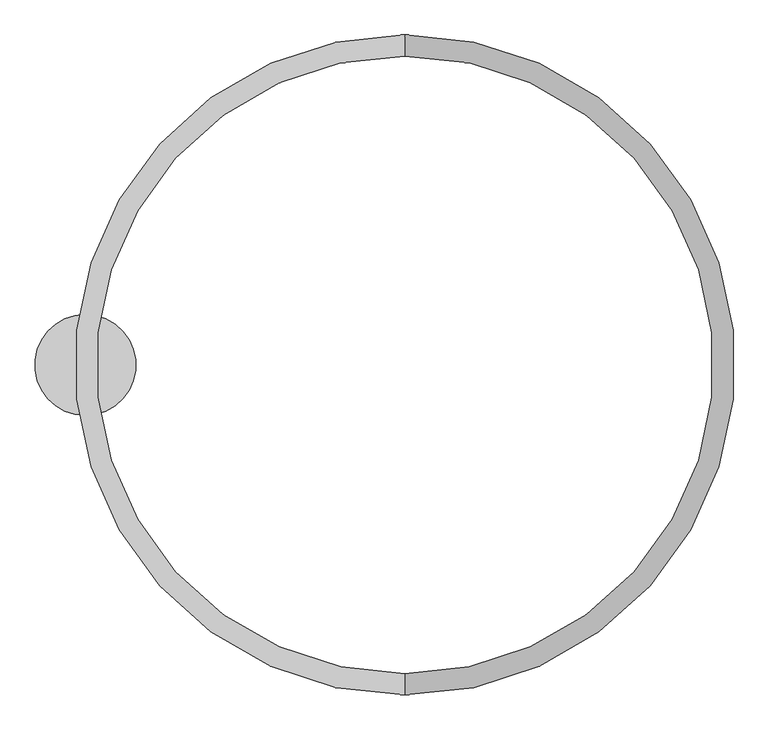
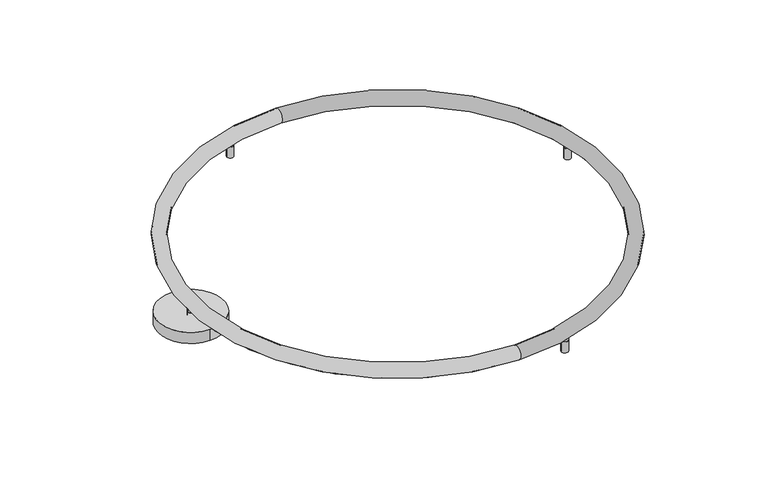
"""IFC4 building model written with IfcOpenShell, lengths in millimetres: light fixture geometry, ARTEMIDE-AoL-StandAlone-Circular_WallCeiling : StandALone_WallCeiling_Circular-1550mm 10740lm 3000K."""

from ifc_helpers import new_model, si_unit, point, frame, origin, origin_with_axes, origin_2d, place, context, project, spatial, polyline, circle_curve, ellipse_curve, trimmed, segment, composite_curve, outline, extrude, source, transform, mapped, element, save
from ifc_brep_helpers import plane_surface, cylinder_surface, revolved_surface, advanced_brep


def light_fixture_4ab28960(model_context):
    return source(origin(), model_context, "Body", "SolidModel", [
        advanced_brep(
        [(-5.5, 0.0, 0.0), (5.5, 0.0, 0.0), (0.0, 0.0, 0.0), (-5.5, 0.0, 1.0), (5.5, 0.0, 1.0), (-12.0, 0.0, 1.0), (12.0, 0.0, 1.0), (-12.0, 0.0, 42.5), (12.0, 0.0, 42.5), (-9.5243756, 0.0, 42.5), (9.5243756, 0.0, 42.5), (-9.5243756, 0.0, 43.4995055), (9.5243756, 0.0, 43.4995055), (-12.0, 0.0, 43.4995055), (12.0, 0.0, 43.4995055), (-12.0, 0.0, 52.9579379), (12.0, 0.0, 52.9579379), (0.0, 0.0, 52.9579379)],
        [
            (0, 1, circle_curve(frame((0.0, 0.0, 0.0), z_axis=(0.0, 0.0, -1.0), x_axis=(1.0, 0.0, 0.0)), 5.5)),
            (1, 2),
            (2, 0),
            (1, 0, circle_curve(frame((0.0, 0.0, 0.0), z_axis=(0.0, 0.0, -1.0), x_axis=(1.0, 0.0, 0.0)), 5.5)),
            (3, 4, circle_curve(frame((0.0, 0.0, 1.0), z_axis=(0.0, 0.0, -1.0), x_axis=(1.0, 0.0, 0.0)), 5.5)),
            (4, 1),
            (0, 3),
            (4, 3, circle_curve(frame((0.0, 0.0, 1.0), z_axis=(0.0, 0.0, -1.0), x_axis=(1.0, 0.0, 0.0)), 5.5)),
            (5, 6, circle_curve(frame((0.0, 0.0, 1.0), z_axis=(0.0, 0.0, -1.0), x_axis=(1.0, 0.0, 0.0)), 12.0)),
            (6, 4),
            (3, 5),
            (6, 5, circle_curve(frame((0.0, 0.0, 1.0), z_axis=(0.0, 0.0, -1.0), x_axis=(1.0, 0.0, 0.0)), 12.0)),
            (7, 8, circle_curve(frame((0.0, 0.0, 42.5), z_axis=(0.0, 0.0, -1.0), x_axis=(1.0, 0.0, 0.0)), 12.0)),
            (8, 6),
            (5, 7),
            (8, 7, circle_curve(frame((0.0, 0.0, 42.5), z_axis=(0.0, 0.0, -1.0), x_axis=(1.0, 0.0, 0.0)), 12.0)),
            (9, 10, circle_curve(frame((0.0, 0.0, 42.5), z_axis=(0.0, 0.0, -1.0), x_axis=(1.0, 0.0, 0.0)), 9.5243756)),
            (10, 8),
            (7, 9),
            (10, 9, circle_curve(frame((0.0, 0.0, 42.5), z_axis=(0.0, 0.0, -1.0), x_axis=(1.0, 0.0, 0.0)), 9.5243756)),
            (11, 12, circle_curve(frame((0.0, 0.0, 43.4995055), z_axis=(0.0, 0.0, -1.0), x_axis=(1.0, 0.0, 0.0)), 9.5243756)),
            (12, 10),
            (9, 11),
            (12, 11, circle_curve(frame((0.0, 0.0, 43.4995055), z_axis=(0.0, 0.0, -1.0), x_axis=(1.0, 0.0, 0.0)), 9.5243756)),
            (13, 14, circle_curve(frame((0.0, 0.0, 43.4995055), z_axis=(0.0, 0.0, -1.0), x_axis=(1.0, 0.0, 0.0)), 12.0)),
            (14, 12),
            (11, 13),
            (14, 13, circle_curve(frame((0.0, 0.0, 43.4995055), z_axis=(0.0, 0.0, -1.0), x_axis=(1.0, 0.0, 0.0)), 12.0)),
            (15, 16, circle_curve(frame((0.0, 0.0, 52.9579379), z_axis=(0.0, 0.0, -1.0), x_axis=(1.0, 0.0, 0.0)), 12.0)),
            (16, 14),
            (13, 15),
            (16, 15, circle_curve(frame((0.0, 0.0, 52.9579379), z_axis=(0.0, 0.0, -1.0), x_axis=(1.0, 0.0, 0.0)), 12.0)),
            (17, 16),
            (15, 17),
        ],
        [
            plane_surface(frame((0.0, 0.0, 0.0), z_axis=(0.0, 0.0, -1.0), x_axis=(1.0, 0.0, 0.0))),
            cylinder_surface(frame((0.0, 0.0, -58.83358), z_axis=(0.0, 0.0, 1.0), x_axis=(1.0, 0.0, 0.0)), 5.5),
            plane_surface(frame((0.0, 0.0, 1.0), z_axis=(0.0, 0.0, -1.0), x_axis=(1.0, 0.0, 0.0))),
            cylinder_surface(frame((0.0, 0.0, -58.83358), z_axis=(0.0, 0.0, 1.0), x_axis=(1.0, 0.0, 0.0)), 12.0),
            plane_surface(frame((0.0, 0.0, 42.5), z_axis=(0.0, 0.0, 1.0), x_axis=(1.0, 0.0, 0.0))),
            cylinder_surface(frame((0.0, 0.0, -58.83358), z_axis=(0.0, 0.0, 1.0), x_axis=(1.0, 0.0, 0.0)), 9.5243756),
            plane_surface(frame((0.0, 0.0, 43.4995055), z_axis=(0.0, 0.0, -1.0), x_axis=(1.0, 0.0, 0.0))),
            plane_surface(frame((0.0, 0.0, 52.9579379), z_axis=(0.0, 0.0, 1.0), x_axis=(1.0, 0.0, 0.0))),
        ],
        [
            (0, [[1, 2, 3]]),
            (0, [[4, -3, -2]]),
            (1, [[5, 6, -1, 7]]),
            (1, [[8, -7, -4, -6]]),
            (2, [[9, 10, -5, 11]]),
            (2, [[12, -11, -8, -10]]),
            (3, [[13, 14, -9, 15]]),
            (3, [[16, -15, -12, -14]]),
            (4, [[17, 18, -13, 19]]),
            (4, [[20, -19, -16, -18]]),
            (5, [[21, 22, -17, 23]]),
            (5, [[24, -23, -20, -22]]),
            (6, [[25, 26, -21, 27]]),
            (6, [[28, -27, -24, -26]]),
            (3, [[29, 30, -25, 31]]),
            (3, [[32, -31, -28, -30]]),
            (7, [[33, -29, 34]]),
            (7, [[-34, -32, -33]]),
        ],
    ),
        advanced_brep(
        [(1481.5, 188.0, 0.0), (1470.5, 188.0, 0.0), (1476.0, 188.0, 0.0), (1481.5, 188.0, 1.0), (1470.5, 188.0, 1.0), (1488.0, 188.0, 1.0), (1464.0, 188.0, 1.0), (1488.0, 188.0, 42.5), (1464.0, 188.0, 42.5), (1485.5243756, 188.0, 42.5), (1466.4756244, 188.0, 42.5), (1485.5243756, 188.0, 43.4995055), (1466.4756244, 188.0, 43.4995055), (1488.0, 188.0, 43.4995055), (1464.0, 188.0, 43.4995055), (1488.0, 188.0, 52.9579379), (1464.0, 188.0, 52.9579379), (1476.0, 188.0, 52.9579379)],
        [
            (0, 1, circle_curve(frame((1476.0, 188.0, 0.0), z_axis=(0.0, 0.0, -1.0), x_axis=(-1.0, 0.0, 0.0)), 5.5)),
            (1, 2),
            (2, 0),
            (1, 0, circle_curve(frame((1476.0, 188.0, 0.0), z_axis=(0.0, 0.0, -1.0), x_axis=(-1.0, 0.0, 0.0)), 5.5)),
            (3, 4, circle_curve(frame((1476.0, 188.0, 1.0), z_axis=(0.0, 0.0, -1.0), x_axis=(-1.0, 0.0, 0.0)), 5.5)),
            (4, 1),
            (0, 3),
            (4, 3, circle_curve(frame((1476.0, 188.0, 1.0), z_axis=(0.0, 0.0, -1.0), x_axis=(-1.0, 0.0, 0.0)), 5.5)),
            (5, 6, circle_curve(frame((1476.0, 188.0, 1.0), z_axis=(0.0, 0.0, -1.0), x_axis=(-1.0, 0.0, 0.0)), 12.0)),
            (6, 4),
            (3, 5),
            (6, 5, circle_curve(frame((1476.0, 188.0, 1.0), z_axis=(0.0, 0.0, -1.0), x_axis=(-1.0, 0.0, 0.0)), 12.0)),
            (7, 8, circle_curve(frame((1476.0, 188.0, 42.5), z_axis=(0.0, 0.0, -1.0), x_axis=(-1.0, 0.0, 0.0)), 12.0)),
            (8, 6),
            (5, 7),
            (8, 7, circle_curve(frame((1476.0, 188.0, 42.5), z_axis=(0.0, 0.0, -1.0), x_axis=(-1.0, 0.0, 0.0)), 12.0)),
            (9, 10, circle_curve(frame((1476.0, 188.0, 42.5), z_axis=(0.0, 0.0, -1.0), x_axis=(-1.0, 0.0, 0.0)), 9.5243756)),
            (10, 8),
            (7, 9),
            (10, 9, circle_curve(frame((1476.0, 188.0, 42.5), z_axis=(0.0, 0.0, -1.0), x_axis=(-1.0, 0.0, 0.0)), 9.5243756)),
            (11, 12, circle_curve(frame((1476.0, 188.0, 43.4995055), z_axis=(0.0, 0.0, -1.0), x_axis=(-1.0, 0.0, 0.0)), 9.5243756)),
            (12, 10),
            (9, 11),
            (12, 11, circle_curve(frame((1476.0, 188.0, 43.4995055), z_axis=(0.0, 0.0, -1.0), x_axis=(-1.0, 0.0, 0.0)), 9.5243756)),
            (13, 14, circle_curve(frame((1476.0, 188.0, 43.4995055), z_axis=(0.0, 0.0, -1.0), x_axis=(-1.0, 0.0, 0.0)), 12.0)),
            (14, 12),
            (11, 13),
            (14, 13, circle_curve(frame((1476.0, 188.0, 43.4995055), z_axis=(0.0, 0.0, -1.0), x_axis=(-1.0, 0.0, 0.0)), 12.0)),
            (15, 16, circle_curve(frame((1476.0, 188.0, 52.9579379), z_axis=(0.0, 0.0, -1.0), x_axis=(-1.0, 0.0, 0.0)), 12.0)),
            (16, 14),
            (13, 15),
            (16, 15, circle_curve(frame((1476.0, 188.0, 52.9579379), z_axis=(0.0, 0.0, -1.0), x_axis=(-1.0, 0.0, 0.0)), 12.0)),
            (17, 16),
            (15, 17),
        ],
        [
            plane_surface(frame((1476.0, 188.0, 0.0), z_axis=(0.0, 0.0, -1.0), x_axis=(-1.0, 0.0, 0.0))),
            cylinder_surface(frame((1476.0, 188.0, -58.83358), z_axis=(0.0, 0.0, 1.0), x_axis=(-1.0, 0.0, 0.0)), 5.5),
            plane_surface(frame((1476.0, 188.0, 1.0), z_axis=(0.0, 0.0, -1.0), x_axis=(-1.0, 0.0, 0.0))),
            cylinder_surface(frame((1476.0, 188.0, -58.83358), z_axis=(0.0, 0.0, 1.0), x_axis=(-1.0, 0.0, 0.0)), 12.0),
            plane_surface(frame((1476.0, 188.0, 42.5), z_axis=(0.0, 0.0, 1.0), x_axis=(-1.0, 0.0, 0.0))),
            cylinder_surface(frame((1476.0, 188.0, -58.83358), z_axis=(0.0, 0.0, 1.0), x_axis=(-1.0, 0.0, 0.0)), 9.5243756),
            plane_surface(frame((1476.0, 188.0, 43.4995055), z_axis=(0.0, 0.0, -1.0), x_axis=(-1.0, 0.0, 0.0))),
            plane_surface(frame((1476.0, 188.0, 52.9579379), z_axis=(0.0, 0.0, 1.0), x_axis=(-1.0, 0.0, 0.0))),
        ],
        [
            (0, [[1, 2, 3]]),
            (0, [[4, -3, -2]]),
            (1, [[5, 6, -1, 7]]),
            (1, [[8, -7, -4, -6]]),
            (2, [[9, 10, -5, 11]]),
            (2, [[12, -11, -8, -10]]),
            (3, [[13, 14, -9, 15]]),
            (3, [[16, -15, -12, -14]]),
            (4, [[17, 18, -13, 19]]),
            (4, [[20, -19, -16, -18]]),
            (5, [[21, 22, -17, 23]]),
            (5, [[24, -23, -20, -22]]),
            (6, [[25, 26, -21, 27]]),
            (6, [[28, -27, -24, -26]]),
            (3, [[29, 30, -25, 31]]),
            (3, [[32, -31, -28, -30]]),
            (7, [[33, -29, 34]]),
            (7, [[-34, -32, -33]]),
        ],
    ),
        advanced_brep(
        [(567.5, 726.0, 0.0), (556.5, 726.0, 0.0), (562.0, 726.0, 0.0), (567.5, 726.0, 1.0), (556.5, 726.0, 1.0), (574.0, 726.0, 1.0), (550.0, 726.0, 1.0), (574.0, 726.0, 42.5), (550.0, 726.0, 42.5), (571.5243756, 726.0, 42.5), (552.4756244, 726.0, 42.5), (571.5243756, 726.0, 43.4995055), (552.4756244, 726.0, 43.4995055), (574.0, 726.0, 43.4995055), (550.0, 726.0, 43.4995055), (574.0, 726.0, 52.9579379), (550.0, 726.0, 52.9579379), (562.0, 726.0, 52.9579379)],
        [
            (0, 1, circle_curve(frame((562.0, 726.0, 0.0), z_axis=(0.0, 0.0, -1.0), x_axis=(-1.0, 0.0, 0.0)), 5.5)),
            (1, 2),
            (2, 0),
            (1, 0, circle_curve(frame((562.0, 726.0, 0.0), z_axis=(0.0, 0.0, -1.0), x_axis=(-1.0, 0.0, 0.0)), 5.5)),
            (3, 4, circle_curve(frame((562.0, 726.0, 1.0), z_axis=(0.0, 0.0, -1.0), x_axis=(-1.0, 0.0, 0.0)), 5.5)),
            (4, 1),
            (0, 3),
            (4, 3, circle_curve(frame((562.0, 726.0, 1.0), z_axis=(0.0, 0.0, -1.0), x_axis=(-1.0, 0.0, 0.0)), 5.5)),
            (5, 6, circle_curve(frame((562.0, 726.0, 1.0), z_axis=(0.0, 0.0, -1.0), x_axis=(-1.0, 0.0, 0.0)), 12.0)),
            (6, 4),
            (3, 5),
            (6, 5, circle_curve(frame((562.0, 726.0, 1.0), z_axis=(0.0, 0.0, -1.0), x_axis=(-1.0, 0.0, 0.0)), 12.0)),
            (7, 8, circle_curve(frame((562.0, 726.0, 42.5), z_axis=(0.0, 0.0, -1.0), x_axis=(-1.0, 0.0, 0.0)), 12.0)),
            (8, 6),
            (5, 7),
            (8, 7, circle_curve(frame((562.0, 726.0, 42.5), z_axis=(0.0, 0.0, -1.0), x_axis=(-1.0, 0.0, 0.0)), 12.0)),
            (9, 10, circle_curve(frame((562.0, 726.0, 42.5), z_axis=(0.0, 0.0, -1.0), x_axis=(-1.0, 0.0, 0.0)), 9.5243756)),
            (10, 8),
            (7, 9),
            (10, 9, circle_curve(frame((562.0, 726.0, 42.5), z_axis=(0.0, 0.0, -1.0), x_axis=(-1.0, 0.0, 0.0)), 9.5243756)),
            (11, 12, circle_curve(frame((562.0, 726.0, 43.4995055), z_axis=(0.0, 0.0, -1.0), x_axis=(-1.0, 0.0, 0.0)), 9.5243756)),
            (12, 10),
            (9, 11),
            (12, 11, circle_curve(frame((562.0, 726.0, 43.4995055), z_axis=(0.0, 0.0, -1.0), x_axis=(-1.0, 0.0, 0.0)), 9.5243756)),
            (13, 14, circle_curve(frame((562.0, 726.0, 43.4995055), z_axis=(0.0, 0.0, -1.0), x_axis=(-1.0, 0.0, 0.0)), 12.0)),
            (14, 12),
            (11, 13),
            (14, 13, circle_curve(frame((562.0, 726.0, 43.4995055), z_axis=(0.0, 0.0, -1.0), x_axis=(-1.0, 0.0, 0.0)), 12.0)),
            (15, 16, circle_curve(frame((562.0, 726.0, 52.9579379), z_axis=(0.0, 0.0, -1.0), x_axis=(-1.0, 0.0, 0.0)), 12.0)),
            (16, 14),
            (13, 15),
            (16, 15, circle_curve(frame((562.0, 726.0, 52.9579379), z_axis=(0.0, 0.0, -1.0), x_axis=(-1.0, 0.0, 0.0)), 12.0)),
            (17, 16),
            (15, 17),
        ],
        [
            plane_surface(frame((562.0, 726.0, 0.0), z_axis=(0.0, 0.0, -1.0), x_axis=(-1.0, 0.0, 0.0))),
            cylinder_surface(frame((562.0, 726.0, -58.83358), z_axis=(0.0, 0.0, 1.0), x_axis=(-1.0, 0.0, 0.0)), 5.5),
            plane_surface(frame((562.0, 726.0, 1.0), z_axis=(0.0, 0.0, -1.0), x_axis=(-1.0, 0.0, 0.0))),
            cylinder_surface(frame((562.0, 726.0, -58.83358), z_axis=(0.0, 0.0, 1.0), x_axis=(-1.0, 0.0, 0.0)), 12.0),
            plane_surface(frame((562.0, 726.0, 42.5), z_axis=(0.0, 0.0, 1.0), x_axis=(-1.0, 0.0, 0.0))),
            cylinder_surface(frame((562.0, 726.0, -58.83358), z_axis=(0.0, 0.0, 1.0), x_axis=(-1.0, 0.0, 0.0)), 9.5243756),
            plane_surface(frame((562.0, 726.0, 43.4995055), z_axis=(0.0, 0.0, -1.0), x_axis=(-1.0, 0.0, 0.0))),
            plane_surface(frame((562.0, 726.0, 52.9579379), z_axis=(0.0, 0.0, 1.0), x_axis=(-1.0, 0.0, 0.0))),
        ],
        [
            (0, [[1, 2, 3]]),
            (0, [[4, -3, -2]]),
            (1, [[5, 6, -1, 7]]),
            (1, [[8, -7, -4, -6]]),
            (2, [[9, 10, -5, 11]]),
            (2, [[12, -11, -8, -10]]),
            (3, [[13, 14, -9, 15]]),
            (3, [[16, -15, -12, -14]]),
            (4, [[17, 18, -13, 19]]),
            (4, [[20, -19, -16, -18]]),
            (5, [[21, 22, -17, 23]]),
            (5, [[24, -23, -20, -22]]),
            (6, [[25, 26, -21, 27]]),
            (6, [[28, -27, -24, -26]]),
            (3, [[29, 30, -25, 31]]),
            (3, [[32, -31, -28, -30]]),
            (7, [[33, -29, 34]]),
            (7, [[-34, -32, -33]]),
        ],
    ),
        extrude(outline(composite_curve([segment(trimmed(circle_curve(origin_2d(), 118.5), [point((0.0, 118.5))], [point((0.0, -118.5))], False, "CARTESIAN"), True, "CONTINUOUS"), segment(trimmed(circle_curve(origin_2d(), 118.5), [point((0.0, -118.5))], [point((0.0, 118.5))], False, "CARTESIAN"), True, "CONTINUOUS")], self_intersect=False)), origin_with_axes(), (0.0, 0.0, 1.0), 42.0),
        advanced_brep(
        [(943.5, -726.0, 0.0), (932.5, -726.0, 0.0), (938.0, -726.0, 0.0), (943.5, -726.0, 1.0), (932.5, -726.0, 1.0), (950.0, -726.0, 1.0), (926.0, -726.0, 1.0), (950.0, -726.0, 42.5), (926.0, -726.0, 42.5), (947.5243756, -726.0, 42.5), (928.4756244, -726.0, 42.5), (947.5243756, -726.0, 43.4995055), (928.4756244, -726.0, 43.4995055), (950.0, -726.0, 43.4995055), (926.0, -726.0, 43.4995055), (950.0, -726.0, 52.9579379), (926.0, -726.0, 52.9579379), (938.0, -726.0, 52.9579379)],
        [
            (0, 1, circle_curve(frame((938.0, -726.0, 0.0), z_axis=(0.0, 0.0, -1.0), x_axis=(-1.0, 0.0, 0.0)), 5.5)),
            (1, 2),
            (2, 0),
            (1, 0, circle_curve(frame((938.0, -726.0, 0.0), z_axis=(0.0, 0.0, -1.0), x_axis=(-1.0, 0.0, 0.0)), 5.5)),
            (3, 4, circle_curve(frame((938.0, -726.0, 1.0), z_axis=(0.0, 0.0, -1.0), x_axis=(-1.0, 0.0, 0.0)), 5.5)),
            (4, 1),
            (0, 3),
            (4, 3, circle_curve(frame((938.0, -726.0, 1.0), z_axis=(0.0, 0.0, -1.0), x_axis=(-1.0, 0.0, 0.0)), 5.5)),
            (5, 6, circle_curve(frame((938.0, -726.0, 1.0), z_axis=(0.0, 0.0, -1.0), x_axis=(-1.0, 0.0, 0.0)), 12.0)),
            (6, 4),
            (3, 5),
            (6, 5, circle_curve(frame((938.0, -726.0, 1.0), z_axis=(0.0, 0.0, -1.0), x_axis=(-1.0, 0.0, 0.0)), 12.0)),
            (7, 8, circle_curve(frame((938.0, -726.0, 42.5), z_axis=(0.0, 0.0, -1.0), x_axis=(-1.0, 0.0, 0.0)), 12.0)),
            (8, 6),
            (5, 7),
            (8, 7, circle_curve(frame((938.0, -726.0, 42.5), z_axis=(0.0, 0.0, -1.0), x_axis=(-1.0, 0.0, 0.0)), 12.0)),
            (9, 10, circle_curve(frame((938.0, -726.0, 42.5), z_axis=(0.0, 0.0, -1.0), x_axis=(-1.0, 0.0, 0.0)), 9.5243756)),
            (10, 8),
            (7, 9),
            (10, 9, circle_curve(frame((938.0, -726.0, 42.5), z_axis=(0.0, 0.0, -1.0), x_axis=(-1.0, 0.0, 0.0)), 9.5243756)),
            (11, 12, circle_curve(frame((938.0, -726.0, 43.4995055), z_axis=(0.0, 0.0, -1.0), x_axis=(-1.0, 0.0, 0.0)), 9.5243756)),
            (12, 10),
            (9, 11),
            (12, 11, circle_curve(frame((938.0, -726.0, 43.4995055), z_axis=(0.0, 0.0, -1.0), x_axis=(-1.0, 0.0, 0.0)), 9.5243756)),
            (13, 14, circle_curve(frame((938.0, -726.0, 43.4995055), z_axis=(0.0, 0.0, -1.0), x_axis=(-1.0, 0.0, 0.0)), 12.0)),
            (14, 12),
            (11, 13),
            (14, 13, circle_curve(frame((938.0, -726.0, 43.4995055), z_axis=(0.0, 0.0, -1.0), x_axis=(-1.0, 0.0, 0.0)), 12.0)),
            (15, 16, circle_curve(frame((938.0, -726.0, 52.9579379), z_axis=(0.0, 0.0, -1.0), x_axis=(-1.0, 0.0, 0.0)), 12.0)),
            (16, 14),
            (13, 15),
            (16, 15, circle_curve(frame((938.0, -726.0, 52.9579379), z_axis=(0.0, 0.0, -1.0), x_axis=(-1.0, 0.0, 0.0)), 12.0)),
            (17, 16),
            (15, 17),
        ],
        [
            plane_surface(frame((938.0, -726.0, 0.0), z_axis=(0.0, 0.0, -1.0), x_axis=(-1.0, 0.0, 0.0))),
            cylinder_surface(frame((938.0, -726.0, -58.83358), z_axis=(0.0, 0.0, 1.0), x_axis=(-1.0, 0.0, 0.0)), 5.5),
            plane_surface(frame((938.0, -726.0, 1.0), z_axis=(0.0, 0.0, -1.0), x_axis=(-1.0, 0.0, 0.0))),
            cylinder_surface(frame((938.0, -726.0, -58.83358), z_axis=(0.0, 0.0, 1.0), x_axis=(-1.0, 0.0, 0.0)), 12.0),
            plane_surface(frame((938.0, -726.0, 42.5), z_axis=(0.0, 0.0, 1.0), x_axis=(-1.0, 0.0, 0.0))),
            cylinder_surface(frame((938.0, -726.0, -58.83358), z_axis=(0.0, 0.0, 1.0), x_axis=(-1.0, 0.0, 0.0)), 9.5243756),
            plane_surface(frame((938.0, -726.0, 43.4995055), z_axis=(0.0, 0.0, -1.0), x_axis=(-1.0, 0.0, 0.0))),
            plane_surface(frame((938.0, -726.0, 52.9579379), z_axis=(0.0, 0.0, 1.0), x_axis=(-1.0, 0.0, 0.0))),
        ],
        [
            (0, [[1, 2, 3]]),
            (0, [[4, -3, -2]]),
            (1, [[5, 6, -1, 7]]),
            (1, [[8, -7, -4, -6]]),
            (2, [[9, 10, -5, 11]]),
            (2, [[12, -11, -8, -10]]),
            (3, [[13, 14, -9, 15]]),
            (3, [[16, -15, -12, -14]]),
            (4, [[17, 18, -13, 19]]),
            (4, [[20, -19, -16, -18]]),
            (5, [[21, 22, -17, 23]]),
            (5, [[24, -23, -20, -22]]),
            (6, [[25, 26, -21, 27]]),
            (6, [[28, -27, -24, -26]]),
            (3, [[29, 30, -25, 31]]),
            (3, [[32, -31, -28, -30]]),
            (7, [[33, -29, 34]]),
            (7, [[-34, -32, -33]]),
        ],
    ),
        advanced_brep(
        [(750.3445739, -738.1969999, 52.9151372), (750.3445739, 738.3030001, 52.9151372), (750.3445739, 761.8030001, 52.9151372), (750.3445739, -761.6969999, 52.9151372), (750.3445739, -738.1969999, 57.2410096), (750.3445739, 738.3030001, 57.2410096), (750.3445739, -736.2792459, 55.8106819), (750.3445739, 736.3852461, 55.8106819), (750.3445739, 736.3852461, 57.2410096), (750.3445739, -736.2792459, 57.2410096), (750.3445739, -734.3292459, 57.2258724), (750.3445739, 734.4352461, 57.2258724), (750.3445739, -734.3292459, 59.2258716), (750.3445739, 734.4352461, 59.2258716), (750.3445739, -737.2792459, 60.7258716), (750.3445739, 737.3852461, 60.7258716), (750.3445739, 737.3852461, 59.2258716), (750.3445739, -737.2792459, 59.2258716), (750.3445739, -767.2249794, 60.7258716), (750.3445739, 767.3309795, 60.7258716), (750.3445739, 732.7750206, 60.7258716), (750.3445739, -732.6690205, 60.7258716), (750.3445739, -762.6147539, 59.2258716), (750.3445739, 762.7207541, 59.2258716), (750.3445739, 762.7207541, 60.7258716), (750.3445739, -762.6147539, 60.7258716), (750.3445739, -765.5647539, 57.2258724), (750.3445739, 765.6707541, 57.2258724), (750.3445739, 765.6707541, 59.2258716), (750.3445739, -765.5647539, 59.2258716), (750.3445739, -763.6147539, 55.8106819), (750.3445739, 763.7207541, 55.8106819), (750.3445739, -763.6147539, 57.2410096), (750.3445739, 763.7207541, 57.2410096), (750.3445739, 761.8030001, 57.2410096), (750.3445739, -761.6969999, 57.2410096)],
        [
            (0, 1, circle_curve(frame((750.3445739, 0.0530001, 52.9151372), z_axis=(0.0, 0.0, -1.0), x_axis=(0.0, 1.0, 0.0)), 738.25)),
            (1, 2, circle_curve(frame((750.3445739, 750.0530001, 74.9817976), z_axis=(-1.0, 0.0, 0.0), x_axis=(0.0, -1.0, 0.0)), 25.0)),
            (2, 3, circle_curve(frame((750.3445739, 0.0530001, 52.9151372), z_axis=(0.0, 0.0, 1.0), x_axis=(0.0, 1.0, 0.0)), 761.75)),
            (3, 0, circle_curve(frame((750.3445739, -749.9469999, 74.9817976), z_axis=(-1.0, 0.0, 0.0), x_axis=(0.0, 1.0, 0.0)), 25.0)),
            (4, 5, circle_curve(frame((750.3445739, 0.0530001, 57.2410096), z_axis=(0.0, 0.0, -1.0), x_axis=(0.0, 1.0, 0.0)), 738.25)),
            (5, 1),
            (0, 4),
            (6, 7, circle_curve(frame((750.3445739, 0.0530001, 55.8106819), z_axis=(0.0, 0.0, -1.0), x_axis=(0.0, 1.0, 0.0)), 736.332246)),
            (7, 8),
            (8, 9, circle_curve(frame((750.3445739, 0.0530001, 57.2410096), z_axis=(0.0, 0.0, 1.0), x_axis=(0.0, 1.0, 0.0)), 736.332246)),
            (9, 6),
            (10, 11, circle_curve(frame((750.3445739, 0.0530001, 57.2258724), z_axis=(0.0, 0.0, -1.0), x_axis=(0.0, 1.0, 0.0)), 734.382246)),
            (11, 7),
            (6, 10),
            (12, 13, circle_curve(frame((750.3445739, 0.0530001, 59.2258716), z_axis=(0.0, 0.0, -1.0), x_axis=(0.0, 1.0, 0.0)), 734.382246)),
            (13, 11),
            (10, 12),
            (14, 15, circle_curve(frame((750.3445739, 0.0530001, 60.7258716), z_axis=(0.0, 0.0, -1.0), x_axis=(0.0, 1.0, 0.0)), 737.332246)),
            (15, 16),
            (16, 17, circle_curve(frame((750.3445739, 0.0530001, 59.2258716), z_axis=(0.0, 0.0, 1.0), x_axis=(0.0, 1.0, 0.0)), 737.332246)),
            (17, 14),
            (18, 19, circle_curve(frame((750.3445739, 0.0530001, 60.7258716), z_axis=(0.0, 0.0, -1.0), x_axis=(0.0, 1.0, 0.0)), 767.2779794)),
            (19, 20, circle_curve(frame((750.3445739, 750.0530001, 74.9817976), z_axis=(1.0, 0.0, 0.0), x_axis=(0.0, -1.0, 0.0)), 22.4)),
            (20, 21, circle_curve(frame((750.3445739, 0.0530001, 60.7258716), z_axis=(0.0, 0.0, 1.0), x_axis=(0.0, 1.0, 0.0)), 732.7220206)),
            (21, 18, circle_curve(frame((750.3445739, -749.9469999, 74.9817976), z_axis=(1.0, 0.0, 0.0), x_axis=(0.0, 1.0, 0.0)), 22.4)),
            (22, 23, circle_curve(frame((750.3445739, 0.0530001, 59.2258716), z_axis=(0.0, 0.0, -1.0), x_axis=(0.0, 1.0, 0.0)), 762.667754)),
            (23, 24),
            (24, 25, circle_curve(frame((750.3445739, 0.0530001, 60.7258716), z_axis=(0.0, 0.0, 1.0), x_axis=(0.0, 1.0, 0.0)), 762.667754)),
            (25, 22),
            (26, 27, circle_curve(frame((750.3445739, 0.0530001, 57.2258724), z_axis=(0.0, 0.0, -1.0), x_axis=(0.0, 1.0, 0.0)), 765.617754)),
            (27, 28),
            (28, 29, circle_curve(frame((750.3445739, 0.0530001, 59.2258716), z_axis=(0.0, 0.0, 1.0), x_axis=(0.0, 1.0, 0.0)), 765.617754)),
            (29, 26),
            (30, 31, circle_curve(frame((750.3445739, 0.0530001, 55.8106819), z_axis=(0.0, 0.0, -1.0), x_axis=(0.0, 1.0, 0.0)), 763.667754)),
            (31, 27),
            (26, 30),
            (32, 33, circle_curve(frame((750.3445739, 0.0530001, 57.2410096), z_axis=(0.0, 0.0, -1.0), x_axis=(0.0, 1.0, 0.0)), 763.667754)),
            (33, 31),
            (30, 32),
            (2, 34),
            (34, 35, circle_curve(frame((750.3445739, 0.0530001, 57.2410096), z_axis=(0.0, 0.0, 1.0), x_axis=(0.0, 1.0, 0.0)), 761.75)),
            (35, 3),
            (1, 0, circle_curve(frame((750.3445739, 0.0530001, 52.9151372), z_axis=(0.0, 0.0, -1.0), x_axis=(0.0, -1.0, 0.0)), 738.25)),
            (3, 2, circle_curve(frame((750.3445739, 0.0530001, 52.9151372), z_axis=(0.0, 0.0, 1.0), x_axis=(0.0, -1.0, 0.0)), 761.75)),
            (5, 4, circle_curve(frame((750.3445739, 0.0530001, 57.2410096), z_axis=(0.0, 0.0, -1.0), x_axis=(0.0, -1.0, 0.0)), 738.25)),
            (8, 9, circle_curve(frame((750.3445739, 0.0530001, 57.2410096), z_axis=(0.0, 0.0, -1.0), x_axis=(0.0, -1.0, 0.0)), 736.332246)),
            (7, 6, circle_curve(frame((750.3445739, 0.0530001, 55.8106819), z_axis=(0.0, 0.0, -1.0), x_axis=(0.0, -1.0, 0.0)), 736.332246)),
            (11, 10, circle_curve(frame((750.3445739, 0.0530001, 57.2258724), z_axis=(0.0, 0.0, -1.0), x_axis=(0.0, -1.0, 0.0)), 734.382246)),
            (13, 12, circle_curve(frame((750.3445739, 0.0530001, 59.2258716), z_axis=(0.0, 0.0, -1.0), x_axis=(0.0, -1.0, 0.0)), 734.382246)),
            (16, 17, circle_curve(frame((750.3445739, 0.0530001, 59.2258716), z_axis=(0.0, 0.0, -1.0), x_axis=(0.0, -1.0, 0.0)), 737.332246)),
            (15, 14, circle_curve(frame((750.3445739, 0.0530001, 60.7258716), z_axis=(0.0, 0.0, -1.0), x_axis=(0.0, -1.0, 0.0)), 737.332246)),
            (20, 21, circle_curve(frame((750.3445739, 0.0530001, 60.7258716), z_axis=(0.0, 0.0, -1.0), x_axis=(0.0, -1.0, 0.0)), 732.7220206)),
            (19, 18, circle_curve(frame((750.3445739, 0.0530001, 60.7258716), z_axis=(0.0, 0.0, -1.0), x_axis=(0.0, -1.0, 0.0)), 767.2779794)),
            (24, 25, circle_curve(frame((750.3445739, 0.0530001, 60.7258716), z_axis=(0.0, 0.0, -1.0), x_axis=(0.0, -1.0, 0.0)), 762.667754)),
            (23, 22, circle_curve(frame((750.3445739, 0.0530001, 59.2258716), z_axis=(0.0, 0.0, -1.0), x_axis=(0.0, -1.0, 0.0)), 762.667754)),
            (28, 29, circle_curve(frame((750.3445739, 0.0530001, 59.2258716), z_axis=(0.0, 0.0, -1.0), x_axis=(0.0, -1.0, 0.0)), 765.617754)),
            (27, 26, circle_curve(frame((750.3445739, 0.0530001, 57.2258724), z_axis=(0.0, 0.0, -1.0), x_axis=(0.0, -1.0, 0.0)), 765.617754)),
            (31, 30, circle_curve(frame((750.3445739, 0.0530001, 55.8106819), z_axis=(0.0, 0.0, -1.0), x_axis=(0.0, -1.0, 0.0)), 763.667754)),
            (33, 32, circle_curve(frame((750.3445739, 0.0530001, 57.2410096), z_axis=(0.0, 0.0, -1.0), x_axis=(0.0, -1.0, 0.0)), 763.667754)),
            (34, 35, circle_curve(frame((750.3445739, 0.0530001, 57.2410096), z_axis=(0.0, 0.0, -1.0), x_axis=(0.0, -1.0, 0.0)), 761.75)),
        ],
        [
            revolved_surface(trimmed(ellipse_curve(frame((750.3445739, 750.0530001, 74.9817976), z_axis=(1.0, 0.0, 0.0), x_axis=(0.0, -1.0, 0.0)), 25.0, 25.0), [point((750.3445739, 761.8030001, 52.9151372))], [point((750.3445739, 738.3030001, 52.9151372))], True, "CARTESIAN"), (750.3445739, 0.0530001, 50.0), (0.0, 0.0, 1.0)),
            cylinder_surface(frame((750.3445739, 0.0530001, 50.0), z_axis=(0.0, 0.0, 1.0), x_axis=(0.0, 1.0, 0.0)), 738.25),
            revolved_surface(polyline([(750.3445739, 736.3852461, 57.2410096), (750.3445739, 736.3852461, 55.8106819)]), (750.3445739, 0.0530001, 50.0), (0.0, 0.0, 1.0)),
            revolved_surface(polyline([(750.3445739, 736.3852461, 55.8106819), (750.3445739, 734.4352461, 57.2258724)]), (750.3445739, 0.0530001, 50.0), (0.0, 0.0, 1.0)),
            cylinder_surface(frame((750.3445739, 0.0530001, 50.0), z_axis=(0.0, 0.0, 1.0), x_axis=(0.0, 1.0, 0.0)), 734.382246),
            cylinder_surface(frame((750.3445739, 0.0530001, 50.0), z_axis=(0.0, 0.0, 1.0), x_axis=(0.0, 1.0, 0.0)), 737.332246),
            revolved_surface(trimmed(ellipse_curve(frame((750.3445739, 750.0530001, 74.9817976), z_axis=(-1.0, 0.0, 0.0), x_axis=(0.0, -1.0, 0.0)), 22.4, 22.4), [point((750.3445739, 732.7750206, 60.7258716))], [point((750.3445739, 767.3309795, 60.7258716))], True, "CARTESIAN"), (750.3445739, 0.0530001, 50.0), (0.0, 0.0, 1.0)),
            revolved_surface(polyline([(750.3445739, 762.7207540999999, 60.7258716), (750.3445739, 762.7207540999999, 59.2258716)]), (750.3445739, 0.0530001, 50.0), (0.0, 0.0, 1.0)),
            revolved_surface(polyline([(750.3445739, 765.6707541, 59.2258716), (750.3445739, 765.6707541, 57.2258724)]), (750.3445739, 0.0530001, 50.0), (0.0, 0.0, 1.0)),
            revolved_surface(polyline([(750.3445739, 765.6707541, 57.2258724), (750.3445739, 763.7207541, 55.8106819)]), (750.3445739, 0.0530001, 50.0), (0.0, 0.0, 1.0)),
            cylinder_surface(frame((750.3445739, 0.0530001, 50.0), z_axis=(0.0, 0.0, 1.0), x_axis=(0.0, 1.0, 0.0)), 763.667754),
            revolved_surface(polyline([(750.3445739, 761.8030001, 57.2410096), (750.3445739, 761.8030001, 52.9151372)]), (750.3445739, 0.0530001, 50.0), (0.0, 0.0, 1.0)),
            revolved_surface(trimmed(ellipse_curve(frame((750.3445739, -749.9469999, 74.9817976), z_axis=(-1.0, 0.0, 0.0), x_axis=(0.0, 1.0, 0.0)), 25.0, 25.0), [point((750.3445739, -761.6969999, 52.9151372))], [point((750.3445739, -738.1969999, 52.9151372))], True, "CARTESIAN"), (750.3445739, 0.0530001, 50.0), (0.0, 0.0, 1.0)),
            cylinder_surface(frame((750.3445739, 0.0530001, 50.0), z_axis=(0.0, 0.0, 1.0), x_axis=(0.0, -1.0, 0.0)), 738.25),
            plane_surface(frame((750.3445739, 0.0530001, 57.2410096), z_axis=(0.0, 0.0, 1.0), x_axis=(0.0, -1.0, 0.0))),
            revolved_surface(polyline([(750.3445739, -736.2792459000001, 57.2410096), (750.3445739, -736.2792459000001, 55.8106819)]), (750.3445739, 0.0530001, 50.0), (0.0, 0.0, 1.0)),
            revolved_surface(polyline([(750.3445739, -736.2792459, 55.8106819), (750.3445739, -734.3292459, 57.2258724)]), (750.3445739, 0.0530001, 50.0), (0.0, 0.0, 1.0)),
            cylinder_surface(frame((750.3445739, 0.0530001, 50.0), z_axis=(0.0, 0.0, 1.0), x_axis=(0.0, -1.0, 0.0)), 734.382246),
            plane_surface(frame((750.3445739, 0.0530001, 59.2258716), z_axis=(0.0, 0.0, -1.0), x_axis=(0.0, -1.0, 0.0))),
            cylinder_surface(frame((750.3445739, 0.0530001, 50.0), z_axis=(0.0, 0.0, 1.0), x_axis=(0.0, -1.0, 0.0)), 737.332246),
            plane_surface(frame((750.3445739, 0.0530001, 60.7258716), z_axis=(0.0, 0.0, 1.0), x_axis=(0.0, -1.0, 0.0))),
            revolved_surface(trimmed(ellipse_curve(frame((750.3445739, -749.9469999, 74.9817976), z_axis=(1.0, 0.0, 0.0), x_axis=(0.0, 1.0, 0.0)), 22.4, 22.4), [point((750.3445739, -732.6690205, 60.7258716))], [point((750.3445739, -767.2249794, 60.7258716))], True, "CARTESIAN"), (750.3445739, 0.0530001, 50.0), (0.0, 0.0, 1.0)),
            revolved_surface(polyline([(750.3445739, -762.6147539, 60.7258716), (750.3445739, -762.6147539, 59.2258716)]), (750.3445739, 0.0530001, 50.0), (0.0, 0.0, 1.0)),
            revolved_surface(polyline([(750.3445739, -765.5647539, 59.2258716), (750.3445739, -765.5647539, 57.2258724)]), (750.3445739, 0.0530001, 50.0), (0.0, 0.0, 1.0)),
            revolved_surface(polyline([(750.3445739, -765.5647539, 57.2258724), (750.3445739, -763.6147539, 55.8106819)]), (750.3445739, 0.0530001, 50.0), (0.0, 0.0, 1.0)),
            cylinder_surface(frame((750.3445739, 0.0530001, 50.0), z_axis=(0.0, 0.0, 1.0), x_axis=(0.0, -1.0, 0.0)), 763.667754),
            revolved_surface(polyline([(750.3445739, -761.6969999, 57.2410096), (750.3445739, -761.6969999, 52.9151372)]), (750.3445739, 0.0530001, 50.0), (0.0, 0.0, 1.0)),
        ],
        [
            (0, [[1, 2, 3, 4]]),
            (1, [[5, 6, -1, 7]]),
            (2, [[8, 9, 10, 11]]),
            (3, [[12, 13, -8, 14]]),
            (4, [[15, 16, -12, 17]]),
            (5, [[18, 19, 20, 21]]),
            (6, [[22, 23, 24, 25]]),
            (7, [[26, 27, 28, 29]]),
            (8, [[30, 31, 32, 33]]),
            (9, [[34, 35, -30, 36]]),
            (10, [[37, 38, -34, 39]]),
            (11, [[-3, 40, 41, 42]]),
            (12, [[43, -4, 44, -2]]),
            (13, [[45, -7, -43, -6]]),
            (14, [[-45, -5], [46, -10]]),
            (15, [[47, -11, -46, -9]]),
            (16, [[48, -14, -47, -13]]),
            (17, [[49, -17, -48, -16]]),
            (18, [[50, -20], [-49, -15]]),
            (19, [[51, -21, -50, -19]]),
            (20, [[-51, -18], [52, -24]]),
            (21, [[53, -25, -52, -23]]),
            (20, [[-53, -22], [54, -28]]),
            (22, [[55, -29, -54, -27]]),
            (18, [[56, -32], [-55, -26]]),
            (23, [[57, -33, -56, -31]]),
            (24, [[58, -36, -57, -35]]),
            (25, [[59, -39, -58, -38]]),
            (14, [[-59, -37], [60, -41]]),
            (26, [[-44, -42, -60, -40]]),
        ],
    ),
        advanced_brep(
        [(750.3445739, -760.75, 52.9), (750.3445739, 762.75, 52.9), (750.3445739, 739.25, 52.9), (750.3445739, -737.25, 52.9), (750.3445739, -760.75, 57.2258724), (750.3445739, 762.75, 57.2258724), (750.3445739, -764.304087, 58.7526314), (750.3445739, 766.304087, 58.7526314), (750.3445739, 766.304087, 57.2258724), (750.3445739, -764.304087, 57.2258724), (750.3445739, -758.5062575, 64.3940086), (750.3445739, 760.5062575, 64.3940086), (750.3445739, 760.5062575, 58.7526314), (750.3445739, -758.5062575, 58.7526314), (750.3445739, -739.4937425, 58.7526314), (750.3445739, 741.4937425, 58.7526314), (750.3445739, 741.4937425, 64.3940086), (750.3445739, -739.4937425, 64.3940086), (750.3445739, -733.695913, 57.2258724), (750.3445739, 735.695913, 57.2258724), (750.3445739, 735.695913, 58.7526314), (750.3445739, -733.695913, 58.7526314), (750.3445739, 739.25, 57.2258724), (750.3445739, -737.25, 57.2258724)],
        [
            (0, 1, circle_curve(frame((750.3445739, 1.0, 52.9), z_axis=(0.0, 0.0, -1.0), x_axis=(0.0, 1.0, 0.0)), 761.75)),
            (1, 2, circle_curve(frame((750.3445739, 751.0, 74.9666604), z_axis=(-1.0, 0.0, 0.0), x_axis=(0.0, -1.0, 0.0)), 25.0)),
            (2, 3, circle_curve(frame((750.3445739, 1.0, 52.9), z_axis=(0.0, 0.0, 1.0), x_axis=(0.0, 1.0, 0.0)), 738.25)),
            (3, 0, circle_curve(frame((750.3445739, -749.0, 74.9666604), z_axis=(-1.0, 0.0, 0.0), x_axis=(0.0, 1.0, 0.0)), 25.0)),
            (4, 5, circle_curve(frame((750.3445739, 1.0, 57.2258724), z_axis=(0.0, 0.0, -1.0), x_axis=(0.0, 1.0, 0.0)), 761.75)),
            (5, 1),
            (0, 4),
            (6, 7, circle_curve(frame((750.3445739, 1.0, 58.7526314), z_axis=(0.0, 0.0, -1.0), x_axis=(0.0, 1.0, 0.0)), 765.304087)),
            (7, 8),
            (8, 9, circle_curve(frame((750.3445739, 1.0, 57.2258724), z_axis=(0.0, 0.0, 1.0), x_axis=(0.0, 1.0, 0.0)), 765.304087)),
            (9, 6),
            (10, 11, circle_curve(frame((750.3445739, 1.0, 64.3940086), z_axis=(0.0, 0.0, -1.0), x_axis=(0.0, 1.0, 0.0)), 759.5062575)),
            (11, 12),
            (12, 13, circle_curve(frame((750.3445739, 1.0, 58.7526314), z_axis=(0.0, 0.0, 1.0), x_axis=(0.0, 1.0, 0.0)), 759.5062575)),
            (13, 10),
            (14, 15, circle_curve(frame((750.3445739, 1.0, 58.7526314), z_axis=(0.0, 0.0, -1.0), x_axis=(0.0, 1.0, 0.0)), 740.4937425)),
            (15, 16),
            (16, 17, circle_curve(frame((750.3445739, 1.0, 64.3940086), z_axis=(0.0, 0.0, 1.0), x_axis=(0.0, 1.0, 0.0)), 740.4937425)),
            (17, 14),
            (18, 19, circle_curve(frame((750.3445739, 1.0, 57.2258724), z_axis=(0.0, 0.0, -1.0), x_axis=(0.0, 1.0, 0.0)), 734.695913)),
            (19, 20),
            (20, 21, circle_curve(frame((750.3445739, 1.0, 58.7526314), z_axis=(0.0, 0.0, 1.0), x_axis=(0.0, 1.0, 0.0)), 734.695913)),
            (21, 18),
            (2, 22),
            (22, 23, circle_curve(frame((750.3445739, 1.0, 57.2258724), z_axis=(0.0, 0.0, 1.0), x_axis=(0.0, 1.0, 0.0)), 738.25)),
            (23, 3),
            (1, 0, circle_curve(frame((750.3445739, 1.0, 52.9), z_axis=(0.0, 0.0, -1.0), x_axis=(0.0, -1.0, 0.0)), 761.75)),
            (3, 2, circle_curve(frame((750.3445739, 1.0, 52.9), z_axis=(0.0, 0.0, 1.0), x_axis=(0.0, -1.0, 0.0)), 738.25)),
            (5, 4, circle_curve(frame((750.3445739, 1.0, 57.2258724), z_axis=(0.0, 0.0, -1.0), x_axis=(0.0, -1.0, 0.0)), 761.75)),
            (8, 9, circle_curve(frame((750.3445739, 1.0, 57.2258724), z_axis=(0.0, 0.0, -1.0), x_axis=(0.0, -1.0, 0.0)), 765.304087)),
            (7, 6, circle_curve(frame((750.3445739, 1.0, 58.7526314), z_axis=(0.0, 0.0, -1.0), x_axis=(0.0, -1.0, 0.0)), 765.304087)),
            (12, 13, circle_curve(frame((750.3445739, 1.0, 58.7526314), z_axis=(0.0, 0.0, -1.0), x_axis=(0.0, -1.0, 0.0)), 759.5062575)),
            (11, 10, circle_curve(frame((750.3445739, 1.0, 64.3940086), z_axis=(0.0, 0.0, -1.0), x_axis=(0.0, -1.0, 0.0)), 759.5062575)),
            (16, 17, circle_curve(frame((750.3445739, 1.0, 64.3940086), z_axis=(0.0, 0.0, -1.0), x_axis=(0.0, -1.0, 0.0)), 740.4937425)),
            (15, 14, circle_curve(frame((750.3445739, 1.0, 58.7526314), z_axis=(0.0, 0.0, -1.0), x_axis=(0.0, -1.0, 0.0)), 740.4937425)),
            (20, 21, circle_curve(frame((750.3445739, 1.0, 58.7526314), z_axis=(0.0, 0.0, -1.0), x_axis=(0.0, -1.0, 0.0)), 734.695913)),
            (19, 18, circle_curve(frame((750.3445739, 1.0, 57.2258724), z_axis=(0.0, 0.0, -1.0), x_axis=(0.0, -1.0, 0.0)), 734.695913)),
            (22, 23, circle_curve(frame((750.3445739, 1.0, 57.2258724), z_axis=(0.0, 0.0, -1.0), x_axis=(0.0, -1.0, 0.0)), 738.25)),
        ],
        [
            revolved_surface(trimmed(ellipse_curve(frame((750.3445739, 751.0, 74.9666604), z_axis=(1.0, 0.0, 0.0), x_axis=(0.0, -1.0, 0.0)), 25.0, 25.0), [point((750.3445739, 739.25, 52.9))], [point((750.3445739, 762.75, 52.9))], True, "CARTESIAN"), (750.3445739, 1.0, 50.0), (0.0, 0.0, 1.0)),
            cylinder_surface(frame((750.3445739, 1.0, 50.0), z_axis=(0.0, 0.0, 1.0), x_axis=(0.0, 1.0, 0.0)), 761.75),
            cylinder_surface(frame((750.3445739, 1.0, 50.0), z_axis=(0.0, 0.0, 1.0), x_axis=(0.0, 1.0, 0.0)), 765.304087),
            cylinder_surface(frame((750.3445739, 1.0, 50.0), z_axis=(0.0, 0.0, 1.0), x_axis=(0.0, 1.0, 0.0)), 759.5062575),
            revolved_surface(polyline([(750.3445739, 741.4937425, 64.3940086), (750.3445739, 741.4937425, 58.7526314)]), (750.3445739, 1.0, 50.0), (0.0, 0.0, 1.0)),
            revolved_surface(polyline([(750.3445739, 735.695913, 58.7526314), (750.3445739, 735.695913, 57.2258724)]), (750.3445739, 1.0, 50.0), (0.0, 0.0, 1.0)),
            revolved_surface(polyline([(750.3445739, 739.25, 57.2258724), (750.3445739, 739.25, 52.9)]), (750.3445739, 1.0, 50.0), (0.0, 0.0, 1.0)),
            revolved_surface(trimmed(ellipse_curve(frame((750.3445739, -749.0, 74.9666604), z_axis=(-1.0, 0.0, 0.0), x_axis=(0.0, 1.0, 0.0)), 25.0, 25.0), [point((750.3445739, -737.25, 52.9))], [point((750.3445739, -760.75, 52.9))], True, "CARTESIAN"), (750.3445739, 1.0, 50.0), (0.0, 0.0, 1.0)),
            cylinder_surface(frame((750.3445739, 1.0, 50.0), z_axis=(0.0, 0.0, 1.0), x_axis=(0.0, -1.0, 0.0)), 761.75),
            plane_surface(frame((750.3445739, 1.0, 57.2258724), z_axis=(0.0, 0.0, -1.0), x_axis=(0.0, -1.0, 0.0))),
            cylinder_surface(frame((750.3445739, 1.0, 50.0), z_axis=(0.0, 0.0, 1.0), x_axis=(0.0, -1.0, 0.0)), 765.304087),
            plane_surface(frame((750.3445739, 1.0, 58.7526314), z_axis=(0.0, 0.0, 1.0), x_axis=(0.0, -1.0, 0.0))),
            cylinder_surface(frame((750.3445739, 1.0, 50.0), z_axis=(0.0, 0.0, 1.0), x_axis=(0.0, -1.0, 0.0)), 759.5062575),
            plane_surface(frame((750.3445739, 1.0, 64.3940086), z_axis=(0.0, 0.0, 1.0), x_axis=(0.0, -1.0, 0.0))),
            revolved_surface(polyline([(750.3445739, -739.4937425, 64.3940086), (750.3445739, -739.4937425, 58.7526314)]), (750.3445739, 1.0, 50.0), (0.0, 0.0, 1.0)),
            revolved_surface(polyline([(750.3445739, -733.695913, 58.7526314), (750.3445739, -733.695913, 57.2258724)]), (750.3445739, 1.0, 50.0), (0.0, 0.0, 1.0)),
            revolved_surface(polyline([(750.3445739, -737.25, 57.2258724), (750.3445739, -737.25, 52.9)]), (750.3445739, 1.0, 50.0), (0.0, 0.0, 1.0)),
        ],
        [
            (0, [[1, 2, 3, 4]]),
            (1, [[5, 6, -1, 7]]),
            (2, [[8, 9, 10, 11]]),
            (3, [[12, 13, 14, 15]]),
            (4, [[16, 17, 18, 19]]),
            (5, [[20, 21, 22, 23]]),
            (6, [[-3, 24, 25, 26]]),
            (7, [[27, -4, 28, -2]]),
            (8, [[29, -7, -27, -6]]),
            (9, [[30, -10], [-29, -5]]),
            (10, [[31, -11, -30, -9]]),
            (11, [[-31, -8], [32, -14]]),
            (12, [[33, -15, -32, -13]]),
            (13, [[-33, -12], [34, -18]]),
            (14, [[35, -19, -34, -17]]),
            (11, [[-35, -16], [36, -22]]),
            (15, [[37, -23, -36, -21]]),
            (9, [[38, -25], [-37, -20]]),
            (16, [[-28, -26, -38, -24]]),
        ],
    ),
    ])


if __name__ == "__main__":
    model = new_model("IFC4")
    model_context = context("Model", 3, world=origin())
    ifc_project = project(units=[si_unit("LENGTHUNIT", "METRE", prefix="MILLI")], contexts=[model_context])
    site = spatial("IfcSite", under=ifc_project)
    building = spatial("IfcBuilding", under=site)
    placement = place(None, origin())
    light_fixture_shape = light_fixture_4ab28960(model_context)
    element("IfcLightFixture", 1, ObjectType="ARTEMIDE-AoL-StandAlone-Circular_WallCeiling : StandALone_WallCeiling_Circular-1550mm 10740lm 3000K", at=placement, inside=building, context=model_context, shape_type="MappedRepresentation", body=[
        mapped(light_fixture_shape, transform((0.0, 0.0, 0.0), x_axis=(1.0, 0.0, 0.0), y_axis=(0.0, 1.0, 0.0), z_axis=(0.0, 0.0, 1.0))),
    ])
    save(model, "model.ifc")
